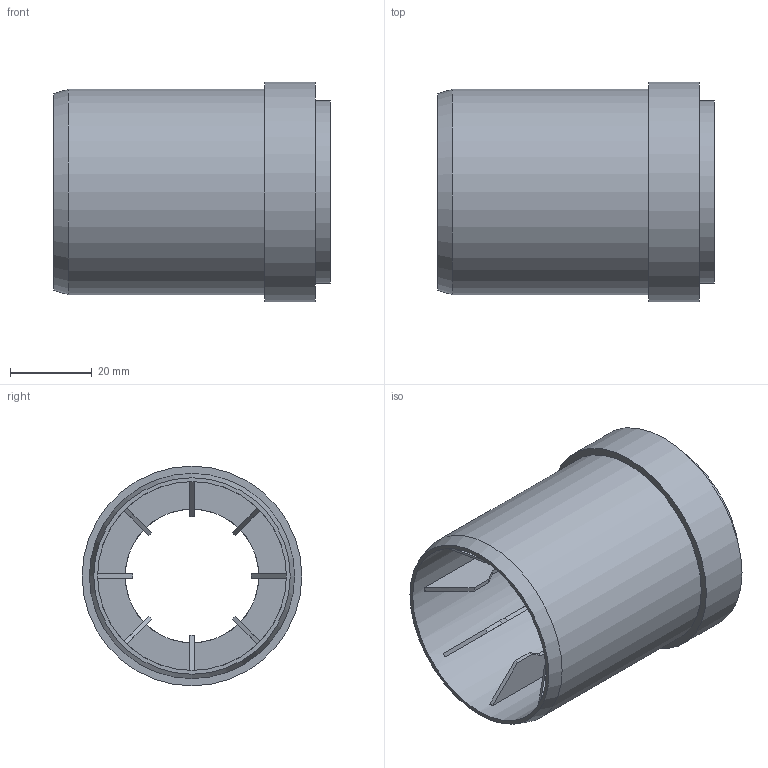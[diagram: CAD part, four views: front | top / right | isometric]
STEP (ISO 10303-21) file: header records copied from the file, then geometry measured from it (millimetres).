
FILE_DESCRIPTION(/* description */ (''),/* implementation_level */ '2;1');
FILE_NAME(/* name */ 'Z:\Geberit\Export\NewStep\390278.stp',/* time_stamp */ '2014-04-02T08:10:36+02:00',/* author */ ('ML'),/* organization */ (''),/* preprocessor_version */ 'ST-DEVELOPER v15.2',/* originating_system */ 'Autodesk Inventor 2014',/* authorisation */ '');
FILE_SCHEMA (('AUTOMOTIVE_DESIGN { 1 0 10303 214 3 1 1 }'));
Length unit declared in the file: millimetre
Products named in the file (1): 390278
Bounding box: 67.6 x 53.7 x 53.7 mm (x, y, z)
Volume: 25532 mm3; surface area: 29434.4 mm2
Topology: 1 solids, 1 shells, 70 faces, 182 edges, 118 vertices
Faces by surface type: plane 62, cylinder 7, cone 1
Full cylindrical faces by diameter (mm): 32.65 x1, 41 x1, 44.6 x1, 46.15 x1, 50.1 x1, 50.15 x1, 53.7 x1
Entity records: 2169 total; most frequent: CARTESIAN_POINT 361, DIRECTION 352, ORIENTED_EDGE 346, EDGE_CURVE 173, LINE 136, VECTOR 136, VERTEX_POINT 117, AXIS2_PLACEMENT_3D 108
